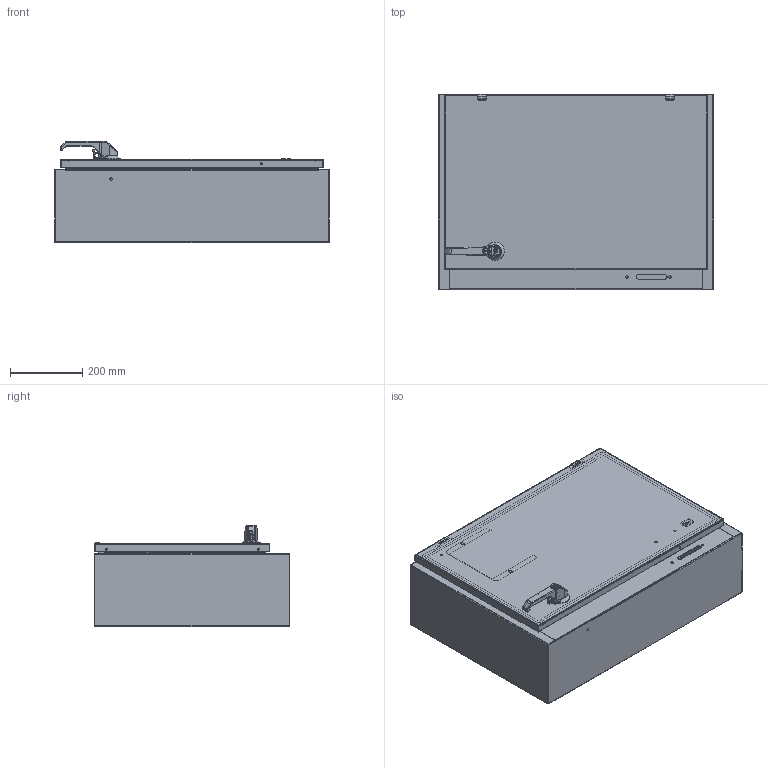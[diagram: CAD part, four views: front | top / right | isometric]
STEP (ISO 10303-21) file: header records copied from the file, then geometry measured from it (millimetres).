
FILE_DESCRIPTION((''),'2;1');
FILE_NAME('MODEL-314_ASM','2023-08-23T13:04:59',('joshi'),('SAGINAW CONTROL & ENGINEERING'),'CREO PARAMETRIC BY PTC INC, 2021284','CREO PARAMETRIC BY PTC INC, 2021284','');
FILE_SCHEMA(('AUTOMOTIVE_DESIGN { 1 0 10303 214 1 1 1 1 }'));
Length unit declared in the file: inch
Products named in the file (48): MODEL-314-BDY; MODEL-314-LS; MODEL-314-RS; MODEL-314-DR; 100837; 100882; 111541; 100953_HANDLE; 100953_HANDLE_INSERT; 100953_SHAFT_CAM; 100953_ADAPTER_CAM; 100953_NUT_CAM; 100953_BASE; 100953_O-RING; 100953_WASHER_SEALING; 100953_NUT_MOUNTING_LARGE; 100953_NUT_MOUNTING_SMALL; 100953_SCREW_SMALL; 100953_INSERT; 100953_PADLOCK_CATCH; 100953_ASM; 128142; 100030; 128142_ASM; MODEL-314-ROD-UPR; 128146; 128145; 128144; 102482; MODEL-314-ROD-UPR_ASM; 128143; 112504; MODEL-314-GSKT; 126391; 126391_ASM; 126393; 102483; 101226; 101376; 102140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
Assembly tree (74 placements, depth 4):
  MODEL-314_ASM
    MODEL-314-BDY
    MODEL-314-LS
    MODEL-314-RS
    MODEL-314-DOOR-ASSY_ASM
      MODEL-314-DR
      100837  x6
      100882  x3
      111541
      100953_ASM
        100953_HANDLE
        100953_HANDLE_INSERT
        100953_SHAFT_CAM
        100953_ADAPTER_CAM
        100953_NUT_CAM
        100953_BASE
        100953_O-RING
        100953_WASHER_SEALING
        100953_NUT_MOUNTING_LARGE
        100953_NUT_MOUNTING_SMALL
        100953_SCREW_SMALL
        100953_INSERT
        100953_PADLOCK_CATCH
      128142_ASM
        128142
        100030  x2
      MODEL-314-ROD-UPR_ASM
        MODEL-314-ROD-UPR
        128146
        128145
        128144
        102482  x2
      128143
      112504
      MODEL-314-GSKT
      126391_ASM  x2
        126391
      126393  x2
      102483  x6
      101226  x2
      101376  x2
      102140  x2
    100837  x2
    103357
    101653  x4
    122191
    SUBPANEL-SUBASSEMBLY_ASM
      SUBPANEL
      100904  x4
Bounding box: 762 x 542.92 x 280.33 mm (x, y, z)
Volume: 4330231.1 mm3; surface area: 3909823.5 mm2
Topology: 68 solids, 68 shells, 5067 faces, 12920 edges, 7999 vertices
Faces by surface type: plane 1780, cylinder 1386, bspline 854, cone 525, torus 372, sphere 150
Entity records: 198680 total; most frequent: CARTESIAN_POINT 70524, ORIENTED_EDGE 19576, DIRECTION 17915, PRESENTATION_STYLE_ASSIGNMENT 9974, STYLED_ITEM 9828, CURVE_STYLE 9788, EDGE_CURVE 9788, AXIS2_PLACEMENT_3D 6721
